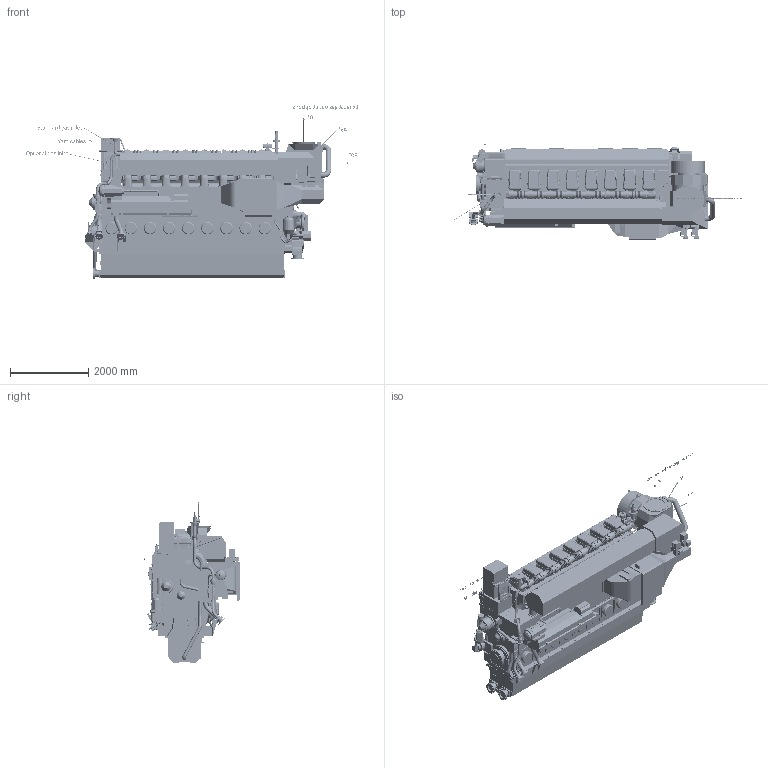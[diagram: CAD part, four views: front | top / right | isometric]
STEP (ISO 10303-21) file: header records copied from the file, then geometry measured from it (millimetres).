
FILE_DESCRIPTION(/* description */ (''),/* implementation_level */ '2;1');
FILE_NAME(/* name */ 'DAAF381993_A.stp',/* time_stamp */ '2021-12-23T09:54:56+02:00',/* author */ (''),/* organization */ (''),/* preprocessor_version */ 'ST-DEVELOPER v16.7',/* originating_system */ 'SIEMENS PLM Software NX 1915',/* authorisation */ '');
FILE_SCHEMA (('AUTOMOTIVE_DESIGN { 1 0 10303 214 3 1 1 1 }'));
Products named in the file (68): PAAF909498_-; PABA065852_-; PABA320172_-; PABA319996_-; PABA089633_-; PAAF975683_-; PAAF975926_-; PABA066964_-; PAAF975946_-; PAAF976975_-; PAAF977035_-; PAAF976966_-; PAAF063770_-; PAAF407546_-; PAAF906214_-; PAAF906213_-; PAAF555086_-; PAAF555085_-; PAAF528361_-; PAAF468817_-; PAAF447172_-; PAAF443398_-; PAAF443022_-; PAAF442682_-; PAAF397145_-; PAAF363075_-; PAAF291916_-; PAAF293701_-; PAAF111190_A; PAAF271372_-; PAAF270351_-; PAAF078702_-; PAAF078621_-; PAAF247482_-; PAAF247479_-; PAAF247485_-; PAAF243367_-; PAAF243503_-; PAAF243662_-; PAAF243671_-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
Assembly tree (95 placements, depth 2):
  PAAF646726_A
    PAAF063632_-
    PAAF074477_-
    PAAF063781_-
    PAAF063782_-
    PAAF078046_-
    PAAF074388_-
    PAAF078074_-
    PAAF078236_-
    PAAF078241_-
    PAAF074414_-
    PAAF093819_-
    PAAF093493_-
    PAAF068478_-
    PAAF074911_-
    PAAF087111_-
    PAAF087114_-
    PAAF087136_-
    PAAF093490_-
    PAAF087122_-
    PAAF093585_-
    PAAF087082_-
    PAAF064319_-
    PAAF211477_-
    PAAF238216_-
    PAAF243622_-
    PAAF245519_-
    PAAF243686_-
    PAAF243671_-
    PAAF243662_-
    PAAF243503_-  x8
    PAAF243367_-
    PAAF247485_-
    PAAF247479_-
    PAAF247482_-
    PAAF078621_-
    PAAF078702_-
    PAAF270351_-
    PAAF271372_-
    PAAF111190_A
    PAAF293701_-  x8
    PAAF291916_-
    PAAF363075_-
    PAAF397145_-
    PAAF442682_-
    PAAF443022_-  x2
    PAAF443398_-
    PAAF447172_-
    PAAF468817_-
    PAAF528361_-
    PAAF555085_-
    PAAF555086_-
    PAAF906213_-
    PAAF906214_-
    PAAF407546_-
    PAAF063770_-
    PAAF976966_-
    PAAF977035_-
    PAAF976975_-
    PAAF975946_-  x7
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Bounding box: 8501.06 x 2472.63 x 4474.58 mm (x, y, z)
Volume: 16288250385.7 mm3; surface area: 241491411.7 mm2
Topology: 397 solids, 409 shells, 13424 faces, 33278 edges, 21462 vertices
Faces by surface type: plane 7442, cylinder 3014, bspline 1611, extrusion 867, torus 384, cone 96, sphere 8, revolution 2
Full cylindrical faces by diameter (mm): 1 x8, 3 x3, 4.5 x4, 6 x21, 8 x36, 9 x2, 9.539 x2, 10 x10, 11 x3, 11.908 x1, 12 x12, 13 x1, 13.2 x4, 13.5 x8, 14 x24, 14.5 x1, 15 x28, 15.5 x4, 15.6 x4, 15.7 x4, 16 x7, 17 x13, 18 x112, 18.5 x2, 19 x1, 20 x8, 20.05 x2, 20.075 x1, 22 x74, 22.6 x2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
Entity records: 475632 total; most frequent: CARTESIAN_POINT 208512, ORIENTED_EDGE 54936, DIRECTION 49762, EDGE_CURVE 27468, VERTEX_POINT 18276, VECTOR 17272, LINE 16405, AXIS2_PLACEMENT_3D 16244
